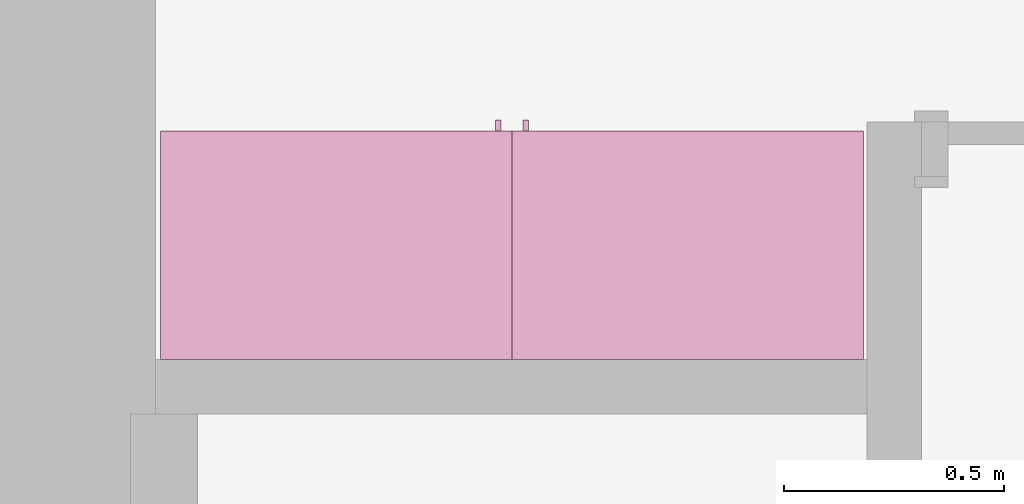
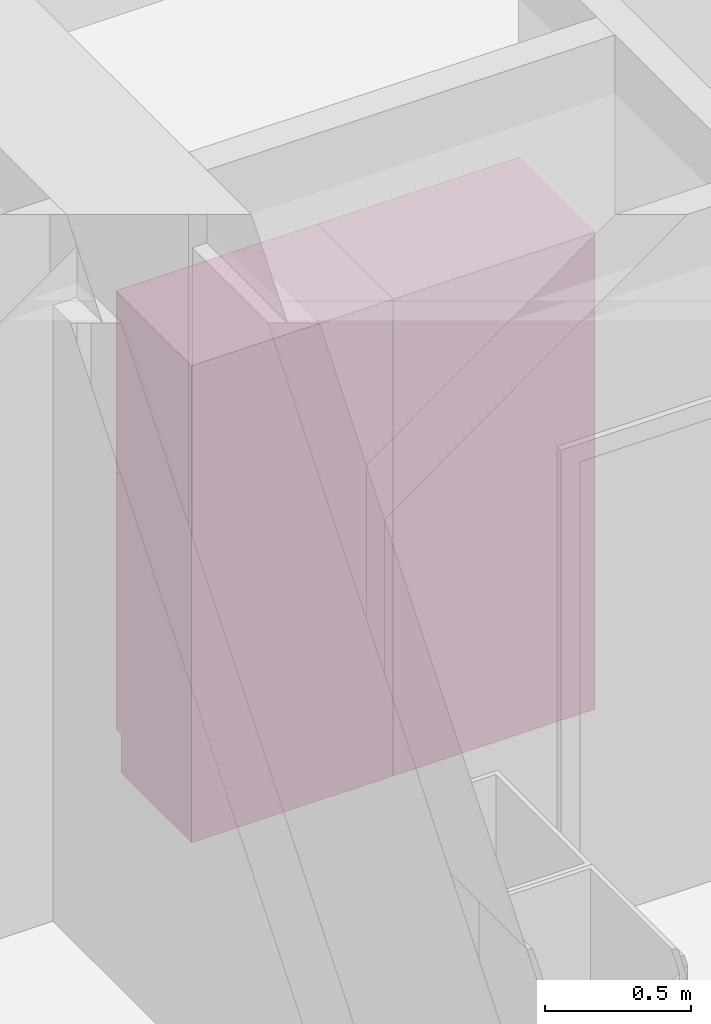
# One storey, part 16 of 16: 2 furnishings, 2 openings.
"""IFC4 building model written with IfcOpenShell, lengths in metres."""

from ifc_helpers import new_model, entity, si_unit, converted_unit, frame, origin, origin_2d_with_axis, place, context, project, spatial, rectangle, extrude, face_set, surface_model, source, transform, mapped, type_object, type_shapes, element, save


model = new_model("IFC4")

# Units and contexts
model_context = context("Model", 3, precision=1e-09, world=origin())
plan_context = context("Plan", 3, precision=1e-09, world=origin())
ifc_project = project(units=[si_unit("LENGTHUNIT", "METRE"), si_unit("AREAUNIT", "SQUARE_METRE"), si_unit("VOLUMEUNIT", "CUBIC_METRE"), converted_unit("PLANEANGLEUNIT", "DEGREE", entity("IfcRatioMeasure", 0.01745329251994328), si_unit("PLANEANGLEUNIT", "RADIAN"), dimensions=[0, 0, 0, 0, 0, 0, 0]), si_unit("TIMEUNIT", "SECOND")], contexts=[model_context, plan_context])

# Site, building, storey, space
site_placement = place(None, origin())
site = spatial("IfcSite", under=ifc_project, at=site_placement, Name="Default", CompositionType="ELEMENT")
building_placement = place(site_placement, origin())
building = spatial("IfcBuilding", under=site, at=building_placement, CompositionType="ELEMENT")
storey_placement = place(building_placement, frame((0.0, 0.0, 3.100000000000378)))
storey = spatial("IfcBuildingStorey", under=building, at=storey_placement, Name="Level 2", CompositionType="ELEMENT", Elevation=3.100000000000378)
space_placement = place(storey_placement, origin())
space = spatial("IfcSpace", under=storey, at=space_placement, Name="A202", CompositionType="ELEMENT", PredefinedType="SPACE")

# Furnishing, opening
furniture_type_1 = type_object("IfcFurnitureType", Name="800 mm", AssemblyPlace="NOTDEFINED")
shared_shape_1 = source(origin(), model_context, "Body", "SurfaceModel", [
    surface_model("IfcFaceBasedSurfaceModel", [(0.7999999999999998, 0.04444999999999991, 0.1615874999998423), (0.0, 0.04445000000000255, 0.1615874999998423), (0.0, 0.04445000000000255, 2.0), (0.7999999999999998, 0.04444999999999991, 2.0), (0.7809499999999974, 0.04444999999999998, 1.980949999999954), (0.01904999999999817, 0.04445000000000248, 1.980949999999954), (0.01904999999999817, 0.04445000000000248, 0.1806374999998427), (0.7809499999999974, 0.04444999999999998, 0.1806374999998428), (0.0, 0.5454000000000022, 2.0), (0.8000000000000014, 0.5453999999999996, 2.0), (0.8000000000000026, 0.5453999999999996, 0.0), (0.0, 0.5454000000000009, 0.0), (0.780949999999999, 0.5453999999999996, 1.980949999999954), (0.0190499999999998, 0.5454000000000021, 1.980949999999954), (0.0190499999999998, 0.5454000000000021, 0.1806374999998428), (0.780949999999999, 0.5453999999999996, 0.1806374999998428), (0.7999999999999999, 0.06040000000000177, 0.1615874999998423), (0.7999999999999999, 0.06040000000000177, 0.0), (0.0, 0.06040000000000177, 0.0), (0.0, 0.06040000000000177, 0.1615874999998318), (0.7745999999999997, 0.0, 1.371548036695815), (0.7745999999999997, 0.0, 1.269948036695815), (0.7620677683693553, 0.0, 1.269948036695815), (0.7620677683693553, 0.0, 1.371548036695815), (0.7745999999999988, 0.0, 1.219148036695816), (0.7745999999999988, 0.0, 1.117548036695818), (0.7620677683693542, 0.0, 1.117548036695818), (0.7620677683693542, 0.0, 1.219148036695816), (0.7745999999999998, 0.02539999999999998, 1.371548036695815), (0.7745999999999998, 0.02539999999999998, 1.269948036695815), (0.7620677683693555, 0.02540000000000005, 1.269948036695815), (0.7620677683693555, 0.02540000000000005, 1.371548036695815), (0.7745999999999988, 0.02539999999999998, 1.219148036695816), (0.7745999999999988, 0.02539999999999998, 1.117548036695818), (0.7620677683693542, 0.02540000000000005, 1.117548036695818), (0.7620677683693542, 0.02540000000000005, 1.219148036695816), (0.7364999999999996, 0.03810000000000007, 1.936499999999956), (0.7364999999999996, 0.03810000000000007, 1.308048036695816), (0.06350000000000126, 0.03810000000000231, 1.308048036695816), (0.06350000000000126, 0.03810000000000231, 1.936499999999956), (0.736499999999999, 0.03810000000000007, 1.181048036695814), (0.736499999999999, 0.03810000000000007, 0.2250874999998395), (0.06350000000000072, 0.03810000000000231, 0.2250874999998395), (0.06350000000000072, 0.03810000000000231, 1.181048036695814), (0.7364999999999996, 0.04445000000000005, 1.936499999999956), (0.7364999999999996, 0.04445000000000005, 1.308048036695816), (0.06350000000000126, 0.04445000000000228, 1.308048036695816), (0.06350000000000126, 0.04445000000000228, 1.936499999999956), (0.736499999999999, 0.04445000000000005, 1.181048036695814), (0.736499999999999, 0.04445000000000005, 0.2250874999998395), (0.06350000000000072, 0.04445000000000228, 0.2250874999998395), (0.06350000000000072, 0.04445000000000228, 1.181048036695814), (0.8, 0.02539999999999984, 2.0), (0.8, 0.02539999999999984, 1.247723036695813), (0.0, 0.02540000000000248, 1.247723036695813), (0.0, 0.02540000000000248, 2.0), (0.7364999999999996, 0.02540000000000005, 1.936499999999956), (0.0635000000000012, 0.02540000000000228, 1.936499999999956), (0.0635000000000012, 0.02540000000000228, 1.308048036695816), (0.7364999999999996, 0.02540000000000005, 1.308048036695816), (0.7999999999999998, 0.02539999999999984, 0.1615874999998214), (0.0, 0.02540000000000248, 0.1615874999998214), (0.0, 0.02540000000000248, 1.241373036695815), (0.7999999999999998, 0.02539999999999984, 1.241373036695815), (0.736499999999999, 0.02540000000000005, 1.181048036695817), (0.06350000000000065, 0.02540000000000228, 1.181048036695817), (0.06350000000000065, 0.02540000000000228, 0.2250874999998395), (0.736499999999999, 0.02540000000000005, 0.2250874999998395), (0.8000000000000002, 0.04444999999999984, 2.0), (0.8000000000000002, 0.04444999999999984, 1.247723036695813), (0.0, 0.04445000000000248, 1.247723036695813), (0.0, 0.04445000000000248, 2.0), (0.7364999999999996, 0.04445000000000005, 1.936499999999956), (0.06350000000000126, 0.04445000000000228, 1.936499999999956), (0.06350000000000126, 0.04445000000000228, 1.308048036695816), (0.7364999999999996, 0.04445000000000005, 1.308048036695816), (0.7999999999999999, 0.04444999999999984, 0.1615874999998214), (0.0, 0.04445000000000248, 0.1615874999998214), (0.0, 0.04445000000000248, 1.241373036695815), (0.7999999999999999, 0.04444999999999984, 1.241373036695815), (0.736499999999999, 0.04445000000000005, 1.181048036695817), (0.06350000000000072, 0.04445000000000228, 1.181048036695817), (0.06350000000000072, 0.04445000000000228, 0.2250874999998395), (0.736499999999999, 0.04445000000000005, 0.2250874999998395), (0.7809499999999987, 0.5263500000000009, 1.980949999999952), (0.7809499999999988, 0.5263500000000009, 0.1806374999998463), (0.01904999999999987, 0.5263500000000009, 0.1806374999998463), (0.0190499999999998, 0.5263500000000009, 1.980949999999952), (0.7809499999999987, 0.5454000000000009, 1.980949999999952), (0.7809499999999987, 0.5454000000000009, 0.1806374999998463), (0.0190499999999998, 0.5454000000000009, 0.1806374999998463), (0.0190499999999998, 0.5454000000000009, 1.980949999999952)], [face_set([[[0, 1, 2, 3], [4, 5, 6, 7]], [[8, 9, 10, 11], [12, 13, 14, 15]], [[3, 0, 16, 17, 10, 9]], [[2, 8, 9, 3]], [[1, 2, 8, 11, 18, 19]], [[0, 1, 19, 16]], [[7, 15, 12, 4]], [[6, 14, 15, 7]], [[5, 13, 14, 6]], [[4, 5, 13, 12]], [[10, 17, 18, 11]], [[18, 19, 16, 17]]]), face_set([[[20, 21, 22, 23]], [[24, 25, 26, 27]], [[28, 29, 30, 31]], [[32, 33, 34, 35]], [[23, 31, 28, 20]], [[22, 23, 31, 30]], [[21, 22, 30, 29]], [[20, 28, 29, 21]], [[27, 35, 32, 24]], [[26, 27, 35, 34]], [[25, 26, 34, 33]], [[24, 32, 33, 25]]]), face_set([[[36, 37, 38, 39]], [[40, 41, 42, 43]], [[44, 45, 46, 47]], [[48, 49, 50, 51]], [[39, 47, 44, 36]], [[38, 46, 47, 39]], [[37, 38, 46, 45]], [[36, 37, 45, 44]], [[43, 51, 48, 40]], [[42, 50, 51, 43]], [[41, 42, 50, 49]], [[40, 41, 49, 48]]]), face_set([[[52, 53, 54, 55], [56, 57, 58, 59]], [[60, 61, 62, 63], [64, 65, 66, 67]], [[68, 69, 70, 71], [72, 73, 74, 75]], [[76, 77, 78, 79], [80, 81, 82, 83]], [[55, 71, 68, 52]], [[54, 55, 71, 70]], [[53, 54, 70, 69]], [[52, 53, 69, 68]], [[63, 60, 76, 79]], [[62, 78, 79, 63]], [[61, 62, 78, 77]], [[60, 61, 77, 76]], [[59, 75, 72, 56]], [[58, 74, 75, 59]], [[57, 58, 74, 73]], [[56, 57, 73, 72]], [[67, 83, 80, 64]], [[66, 82, 83, 67]], [[65, 66, 82, 81]], [[64, 65, 81, 80]]]), face_set([[[84, 85, 86, 87]], [[88, 89, 90, 91]], [[87, 91, 88, 84]], [[86, 87, 91, 90]], [[85, 86, 90, 89]], [[84, 85, 89, 88]]])]),
])
type_shapes(furniture_type_1, [shared_shape_1])
furnishing_1_placement = place(space_placement, frame((6.286000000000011, -6.120600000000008, 0.0), z_axis=(0.0, 0.0, 1.0), x_axis=(-1.0, 0.0, 0.0)))
furnishing_1 = element("IfcFurnishingElement", 1, at=furnishing_1_placement, inside=space, type_object=furniture_type_1, Name="M_Tall Cabinet-Single Door(2):800 mm:800 mm", ObjectType="800 mm", context=model_context, shape_type="MappedRepresentation", body=[
    mapped(shared_shape_1, transform((0.0, 0.0, 0.0), scale=1.0)),
])
opening_1_placement = place(space_placement, frame((6.286000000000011, -6.120600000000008, 0.0), z_axis=(0.0, 0.0, 1.0), x_axis=(-1.0, 0.0, 0.0)))
element("IfcOpeningElement", 2, at=opening_1_placement, cuts=furnishing_1, Name="M_Tall Cabinet-Single Door(2):800 mm:800 mm:1", ObjectType="Opening", context=model_context, shape_type="SweptSolid", body=[
    extrude(rectangle(XDim=1.800312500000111, YDim=0.7618999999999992, at=origin_2d_with_axis()), frame((-0.01873770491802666, 0.5009499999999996, -2.01920625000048), z_axis=(0.0, -1.0, 0.0), x_axis=(0.0, 0.0, -1.0)), (0.0, 0.0, 1.0), 0.5009499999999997),
])

furniture_type_2 = type_object("IfcFurnitureType", Name="800 mm", AssemblyPlace="NOTDEFINED")
shared_shape_2 = source(origin(), model_context, "Body", "SurfaceModel", [
    surface_model("IfcFaceBasedSurfaceModel", [(0.7999999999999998, 0.5009500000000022, 0.1615874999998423), (0.7999999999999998, 0.5009500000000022, 2.0), (0.0, 0.5009499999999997, 2.0), (0.0, 0.5009499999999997, 0.1615874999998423), (0.7809499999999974, 0.5009500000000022, 1.980949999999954), (0.7809499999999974, 0.5009500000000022, 0.1806374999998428), (0.01904999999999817, 0.5009499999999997, 0.1806374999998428), (0.01904999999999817, 0.5009499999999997, 1.980949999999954), (0.0, 0.0, 2.0), (0.0, 0.0, 0.0), (0.8000000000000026, 0.0, 0.0), (0.8000000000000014, 0.0, 2.0), (0.780949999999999, 0.0, 1.980949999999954), (0.780949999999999, 0.0, 0.1806374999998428), (0.0190499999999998, 0.0, 0.1806374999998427), (0.0190499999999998, 0.0, 1.980949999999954), (0.8000000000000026, 0.4850000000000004, 0.0), (0.7999999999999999, 0.4850000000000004, 0.1615874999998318), (0.0, 0.4850000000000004, 0.0), (0.0, 0.4850000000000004, 0.1615874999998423), (0.7745999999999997, 0.5454000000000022, 1.371548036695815), (0.7620677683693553, 0.5454000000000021, 1.371548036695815), (0.7620677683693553, 0.5454000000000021, 1.269948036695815), (0.7745999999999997, 0.5454000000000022, 1.269948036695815), (0.7745999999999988, 0.5454000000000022, 1.219148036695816), (0.7620677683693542, 0.5454000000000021, 1.219148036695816), (0.7620677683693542, 0.5454000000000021, 1.117548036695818), (0.7745999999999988, 0.5454000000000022, 1.117548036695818), (0.7745999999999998, 0.5200000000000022, 1.371548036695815), (0.7620677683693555, 0.5200000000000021, 1.371548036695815), (0.7620677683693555, 0.5200000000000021, 1.269948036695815), (0.7745999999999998, 0.5200000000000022, 1.269948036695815), (0.7745999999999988, 0.5200000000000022, 1.219148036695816), (0.7620677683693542, 0.5200000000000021, 1.219148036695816), (0.7620677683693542, 0.5200000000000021, 1.117548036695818), (0.7745999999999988, 0.5200000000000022, 1.117548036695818), (0.7364999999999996, 0.5073000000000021, 1.936499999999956), (0.06350000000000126, 0.5072999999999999, 1.936499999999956), (0.06350000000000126, 0.5072999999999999, 1.308048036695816), (0.7364999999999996, 0.5073000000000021, 1.308048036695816), (0.736499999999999, 0.5073000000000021, 1.181048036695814), (0.06350000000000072, 0.5072999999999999, 1.181048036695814), (0.06350000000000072, 0.5072999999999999, 0.2250874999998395), (0.736499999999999, 0.5073000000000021, 0.2250874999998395), (0.7364999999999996, 0.5009500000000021, 1.936499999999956), (0.06350000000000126, 0.5009499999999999, 1.936499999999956), (0.06350000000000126, 0.5009499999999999, 1.308048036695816), (0.7364999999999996, 0.5009500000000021, 1.308048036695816), (0.736499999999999, 0.5009500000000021, 1.181048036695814), (0.06350000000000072, 0.5009499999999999, 1.181048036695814), (0.06350000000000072, 0.5009499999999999, 0.2250874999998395), (0.736499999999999, 0.5009500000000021, 0.2250874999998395), (0.8, 0.5200000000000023, 2.0), (0.0, 0.5199999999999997, 2.0), (0.0, 0.5199999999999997, 1.247723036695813), (0.8, 0.5200000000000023, 1.247723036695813), (0.7364999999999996, 0.5200000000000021, 1.936499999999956), (0.7364999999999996, 0.5200000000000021, 1.308048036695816), (0.0635000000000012, 0.5199999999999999, 1.308048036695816), (0.0635000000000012, 0.5199999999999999, 1.936499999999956), (0.7999999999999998, 0.5200000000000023, 0.1615874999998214), (0.7999999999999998, 0.5200000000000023, 1.241373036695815), (0.0, 0.5199999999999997, 1.241373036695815), (0.0, 0.5199999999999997, 0.1615874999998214), (0.736499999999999, 0.5200000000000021, 1.181048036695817), (0.736499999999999, 0.5200000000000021, 0.2250874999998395), (0.06350000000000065, 0.5199999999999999, 0.2250874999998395), (0.06350000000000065, 0.5199999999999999, 1.181048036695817), (0.8000000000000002, 0.5009500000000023, 2.0), (0.0, 0.5009499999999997, 2.0), (0.0, 0.5009499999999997, 1.247723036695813), (0.8, 0.5009500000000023, 1.247723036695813), (0.7364999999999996, 0.5009500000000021, 1.936499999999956), (0.7364999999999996, 0.5009500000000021, 1.308048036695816), (0.06350000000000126, 0.5009499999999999, 1.308048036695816), (0.06350000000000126, 0.5009499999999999, 1.936499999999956), (0.7999999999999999, 0.5009500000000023, 0.1615874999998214), (0.7999999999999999, 0.5009500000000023, 1.241373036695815), (0.0, 0.5009499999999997, 1.241373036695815), (0.0, 0.5009499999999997, 0.1615874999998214), (0.736499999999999, 0.5009500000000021, 1.181048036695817), (0.736499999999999, 0.5009500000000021, 0.2250874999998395), (0.06350000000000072, 0.5009499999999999, 0.2250874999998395), (0.06350000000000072, 0.5009499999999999, 1.181048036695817), (0.7809499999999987, 0.01905000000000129, 1.980949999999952), (0.0190499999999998, 0.01905000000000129, 1.980949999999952), (0.0190499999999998, 0.01905000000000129, 0.1806374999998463), (0.7809499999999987, 0.01905000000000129, 0.1806374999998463), (0.7809499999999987, 0.0, 1.980949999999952), (0.0190499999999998, 0.0, 1.980949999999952), (0.01904999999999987, 0.0, 0.1806374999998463), (0.7809499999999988, 0.0, 0.1806374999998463)], [face_set([[[0, 1, 2, 3], [4, 5, 6, 7]], [[8, 9, 10, 11], [12, 13, 14, 15]], [[1, 11, 10, 16, 17, 0]], [[2, 1, 11, 8]], [[3, 2, 8, 9, 18, 19]], [[0, 17, 19, 3]], [[5, 4, 12, 13]], [[6, 5, 13, 14]], [[7, 6, 14, 15]], [[4, 12, 15, 7]], [[10, 9, 18, 16]], [[18, 16, 17, 19]]]), face_set([[[20, 21, 22, 23]], [[24, 25, 26, 27]], [[28, 29, 30, 31]], [[32, 33, 34, 35]], [[21, 20, 28, 29]], [[22, 30, 29, 21]], [[23, 31, 30, 22]], [[20, 23, 31, 28]], [[25, 24, 32, 33]], [[26, 34, 33, 25]], [[27, 35, 34, 26]], [[24, 27, 35, 32]]]), face_set([[[36, 37, 38, 39]], [[40, 41, 42, 43]], [[44, 45, 46, 47]], [[48, 49, 50, 51]], [[37, 36, 44, 45]], [[38, 37, 45, 46]], [[39, 47, 46, 38]], [[36, 44, 47, 39]], [[41, 40, 48, 49]], [[42, 41, 49, 50]], [[43, 51, 50, 42]], [[40, 48, 51, 43]]]), face_set([[[52, 53, 54, 55], [56, 57, 58, 59]], [[60, 61, 62, 63], [64, 65, 66, 67]], [[68, 69, 70, 71], [72, 73, 74, 75]], [[76, 77, 78, 79], [80, 81, 82, 83]], [[53, 52, 68, 69]], [[54, 70, 69, 53]], [[55, 71, 70, 54]], [[52, 68, 71, 55]], [[61, 77, 76, 60]], [[62, 61, 77, 78]], [[63, 79, 78, 62]], [[60, 76, 79, 63]], [[57, 56, 72, 73]], [[58, 57, 73, 74]], [[59, 75, 74, 58]], [[56, 72, 75, 59]], [[65, 64, 80, 81]], [[66, 65, 81, 82]], [[67, 83, 82, 66]], [[64, 80, 83, 67]]]), face_set([[[84, 85, 86, 87]], [[88, 89, 90, 91]], [[85, 84, 88, 89]], [[86, 90, 89, 85]], [[87, 91, 90, 86]], [[84, 88, 91, 87]]])]),
])
type_shapes(furniture_type_2, [shared_shape_2])
furnishing_2_placement = place(space_placement, frame((4.686000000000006, -6.665999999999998, 0.0)))
furnishing_2 = element("IfcFurnishingElement", 3, at=furnishing_2_placement, inside=space, type_object=furniture_type_2, Name="M_Tall Cabinet-Single Door(2):800 mm:800 mm", ObjectType="800 mm", context=model_context, shape_type="MappedRepresentation", body=[
    mapped(shared_shape_2, transform((0.0, 0.0, 0.0), scale=1.0)),
])
opening_2_placement = place(space_placement, frame((4.686000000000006, -6.665999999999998, 0.0)))
element("IfcOpeningElement", 4, at=opening_2_placement, cuts=furnishing_2, Name="M_Tall Cabinet-Single Door(2):800 mm:800 mm:1", ObjectType="Opening", context=model_context, shape_type="SweptSolid", body=[
    extrude(rectangle(XDim=1.800312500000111, YDim=0.7618999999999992, at=origin_2d_with_axis()), frame((0.01873770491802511, 0.0, -2.01920625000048), z_axis=(0.0, 1.0, 0.0), x_axis=(0.0, 0.0, -1.0)), (0.0, 0.0, 1.0), 0.5009499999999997),
])

save(model, "model.ifc")
